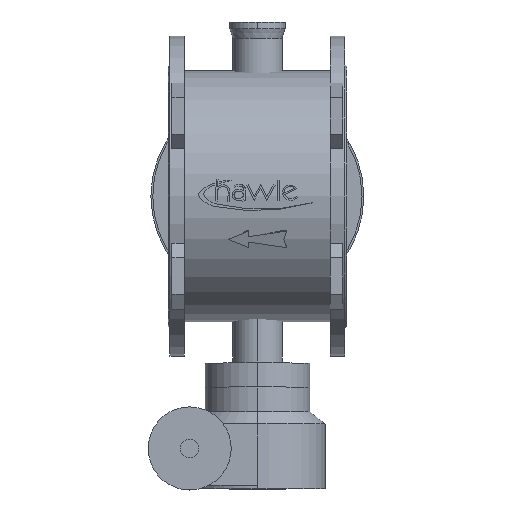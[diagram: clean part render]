
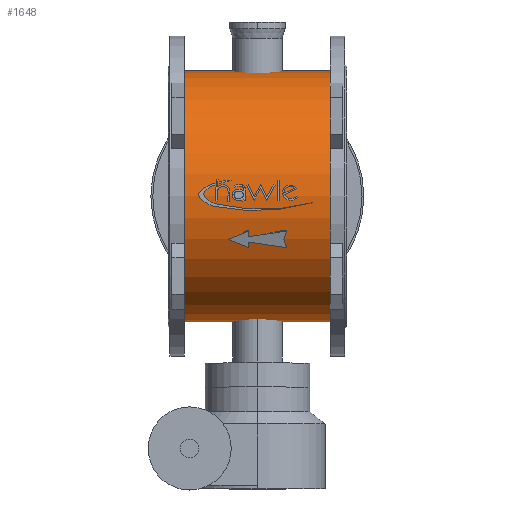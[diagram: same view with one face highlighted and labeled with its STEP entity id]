
A CAD part, top view. The second image highlights one B-rep face of the part: STEP entity #1648.
In plain terms, the highlighted cylindrical face has radius 204 mm (diameter 408 mm), a partial arc.
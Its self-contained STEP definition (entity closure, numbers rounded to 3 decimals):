
#1648=ADVANCED_FACE('',(#3092),#3093,.T.);
#3092=FACE_OUTER_BOUND('',#4644,.T.);
#3093=CYLINDRICAL_SURFACE('',#4645,204.0);
#4644=EDGE_LOOP('',(#7734,#7735,#7736,#7737));
#4645=AXIS2_PLACEMENT_3D('',#7738,#7739,#7740);
#7734=ORIENTED_EDGE('',*,*,#9360,.T.);
#7735=ORIENTED_EDGE('',*,*,#9237,.T.);
#7736=ORIENTED_EDGE('',*,*,#9361,.T.);
#7737=ORIENTED_EDGE('',*,*,#9362,.T.);
#7738=CARTESIAN_POINT('',(-263.5,0.,0.0));
#7739=DIRECTION('',(1.0,0.,0.0));
#7740=DIRECTION('',(0.,-1.0,0.0));
#9237=EDGE_CURVE('',#11095,#11096,#11097,.T.);
#9360=EDGE_CURVE('',#11231,#11095,#11232,.T.);
#9361=EDGE_CURVE('',#11096,#11233,#11234,.T.);
#9362=EDGE_CURVE('',#11233,#11231,#11235,.T.);
#11095=VERTEX_POINT('',#13415);
#11096=VERTEX_POINT('',#13416);
#11097=CIRCLE('',#13417,204.0);
#11231=VERTEX_POINT('',#13584);
#11232=LINE('',#13585,#13586);
#11233=VERTEX_POINT('',#13587);
#11234=LINE('',#13588,#13589);
#11235=CIRCLE('',#13590,204.0);
#13415=CARTESIAN_POINT('',(-24.5,-204.0,0.0));
#13416=CARTESIAN_POINT('',(-24.5,204.0,0.));
#13417=AXIS2_PLACEMENT_3D('',#15154,#15155,#15156);
#13584=CARTESIAN_POINT('',(-263.5,-204.0,0.0));
#13585=CARTESIAN_POINT('',(-263.5,-204.0,0.));
#13586=VECTOR('',#15247,1.0);
#13587=CARTESIAN_POINT('',(-263.5,204.0,0.));
#13588=CARTESIAN_POINT('',(-263.5,204.0,0.));
#13589=VECTOR('',#15248,1.0);
#13590=AXIS2_PLACEMENT_3D('',#15249,#15250,#15251);
#15154=CARTESIAN_POINT('',(-24.5,0.,0.0));
#15155=DIRECTION('',(-1.0,0.,0.0));
#15156=DIRECTION('',(0.,-1.0,0.0));
#15247=DIRECTION('',(1.0,0.,0.0));
#15248=DIRECTION('',(-1.0,0.,-0.0));
#15249=CARTESIAN_POINT('',(-263.5,0.,0.0));
#15250=DIRECTION('',(1.0,0.,0.0));
#15251=DIRECTION('',(0.,-1.0,0.0));
